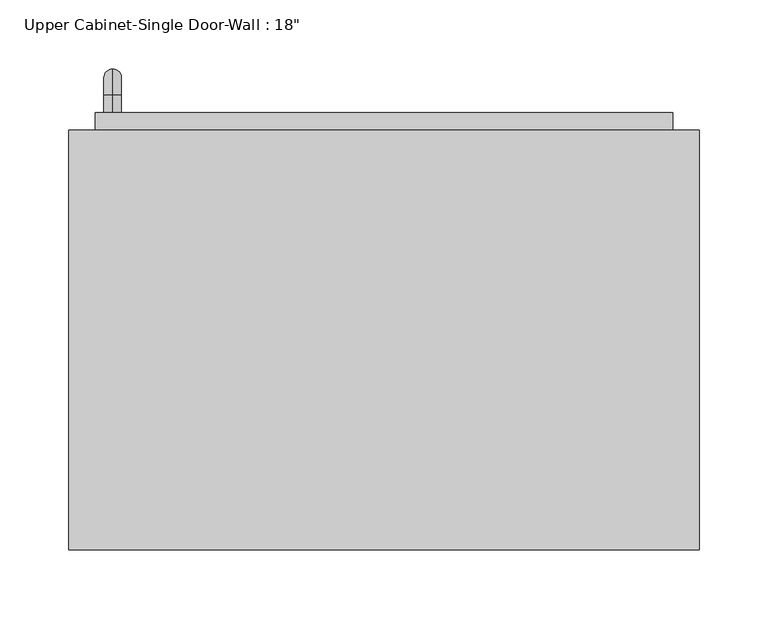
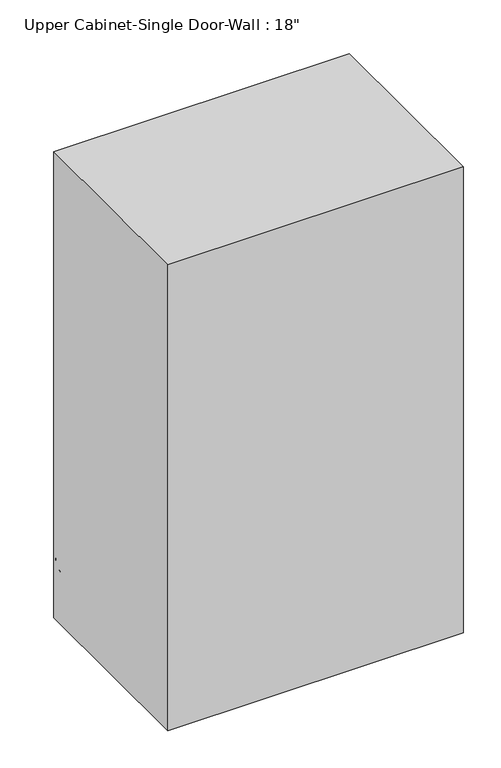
"""IFC4 building model written with IfcOpenShell, lengths in millimetres: furniture geometry."""

from ifc_helpers import new_model, si_unit, point, frame, origin, place, context, project, spatial, polyline, circle_curve, ellipse_curve, trimmed, outline, extrude, faceted_brep, source, transform, mapped, element, save
from ifc_brep_helpers import plane_surface, cylinder_surface, revolved_surface, advanced_brep


def furniture_02d81ec9(model_context):
    return source(origin(), model_context, "Body", "SolidModel", [
        faceted_brep([(-198.8288372, 90.4875, 2133.6), (-198.8288372, 90.4875, 1371.6), (258.3711628, 90.4875, 1371.6), (258.3711628, 90.4875, 2133.6), (-198.8288372, 395.2875, 2133.6), (258.3711628, 395.2875, 2133.6), (258.3711628, 395.2875, 1371.6), (-198.8288372, 395.2875, 1371.6), (-179.7788372, 395.2875, 2114.55), (-179.7788372, 395.2875, 1390.65), (239.3211628, 395.2875, 1390.65), (239.3211628, 395.2875, 2114.55), (239.3211628, 109.5375, 2114.55), (-179.7788372, 109.5375, 2114.55), (239.3211628, 109.5375, 1390.65), (-179.7788372, 109.5375, 1390.65)], [[[0, 1, 2, 3]], [[4, 5, 6, 7], [8, 9, 10, 11]], [[1, 0, 4, 7]], [[2, 1, 7, 6]], [[3, 2, 6, 5]], [[0, 3, 5, 4]], [[8, 11, 12, 13]], [[11, 10, 14, 12]], [[10, 9, 15, 14]], [[9, 8, 13, 15]], [[13, 12, 14, 15]]]),
        advanced_brep(
        [(-167.0788372, 407.9875, 1517.65), (-167.0788372, 407.9875, 1530.35), (-167.0788372, 420.6875, 1517.65), (-167.0788372, 420.6875, 1530.35), (-167.0788372, 439.7375, 1511.3), (-167.0788372, 427.0375, 1511.3), (-167.0788372, 427.0375, 1435.1), (-167.0788372, 439.7375, 1435.1), (-167.0788372, 420.6875, 1416.05), (-167.0788372, 420.6875, 1428.75), (-167.0788372, 407.9875, 1428.75), (-167.0788372, 407.9875, 1416.05)],
        [
            (0, 1, circle_curve(frame((-167.0788372, 407.9875, 1524.0), z_axis=(0.0, -1.0, 0.0), x_axis=(0.0, 0.0, 1.0)), 6.35)),
            (1, 0, circle_curve(frame((-167.0788372, 407.9875, 1524.0), z_axis=(0.0, -1.0, 0.0), x_axis=(0.0, 0.0, 1.0)), 6.35)),
            (0, 2),
            (2, 3, circle_curve(frame((-167.0788372, 420.6875, 1524.0), z_axis=(0.0, -1.0, 0.0), x_axis=(0.0, 0.0, 1.0)), 6.35)),
            (3, 1),
            (3, 2, circle_curve(frame((-167.0788372, 420.6875, 1524.0), z_axis=(0.0, -1.0, 0.0), x_axis=(0.0, 0.0, 1.0)), 6.35)),
            (4, 3, circle_curve(frame((-167.0788372, 420.6875, 1511.3), z_axis=(1.0, 0.0, 0.0), x_axis=(0.0, 0.0, 1.0)), 19.05)),
            (2, 5, circle_curve(frame((-167.0788372, 420.6875, 1511.3), z_axis=(-1.0, 0.0, 0.0), x_axis=(0.0, 0.0, 1.0)), 6.35)),
            (5, 4, circle_curve(frame((-167.0788372, 433.3875, 1511.3), z_axis=(0.0, 0.0, 1.0), x_axis=(0.0, 1.0, 0.0)), 6.35)),
            (4, 5, circle_curve(frame((-167.0788372, 433.3875, 1511.3), z_axis=(0.0, 0.0, 1.0), x_axis=(0.0, 1.0, 0.0)), 6.35)),
            (5, 6),
            (6, 7, circle_curve(frame((-167.0788372, 433.3875, 1435.1), z_axis=(0.0, 0.0, 1.0), x_axis=(0.0, 1.0, 0.0)), 6.35)),
            (7, 4),
            (7, 6, circle_curve(frame((-167.0788372, 433.3875, 1435.1), z_axis=(0.0, 0.0, 1.0), x_axis=(0.0, 1.0, 0.0)), 6.35)),
            (8, 7, circle_curve(frame((-167.0788372, 420.6875, 1435.1), z_axis=(1.0, 0.0, 0.0), x_axis=(0.0, 1.0, 0.0)), 19.05)),
            (6, 9, circle_curve(frame((-167.0788372, 420.6875, 1435.1), z_axis=(-1.0, 0.0, 0.0), x_axis=(0.0, 1.0, 0.0)), 6.35)),
            (9, 8, circle_curve(frame((-167.0788372, 420.6875, 1422.4), z_axis=(0.0, 1.0, 0.0), x_axis=(0.0, 0.0, -1.0)), 6.35)),
            (8, 9, circle_curve(frame((-167.0788372, 420.6875, 1422.4), z_axis=(0.0, 1.0, 0.0), x_axis=(0.0, 0.0, -1.0)), 6.35)),
            (10, 11, circle_curve(frame((-167.0788372, 407.9875, 1422.4), z_axis=(0.0, -1.0, 0.0), x_axis=(0.0, 0.0, -1.0)), 6.35)),
            (11, 10, circle_curve(frame((-167.0788372, 407.9875, 1422.4), z_axis=(0.0, -1.0, 0.0), x_axis=(0.0, 0.0, -1.0)), 6.35)),
            (9, 10),
            (11, 8),
        ],
        [
            plane_surface(frame((-173.4288372, 407.9875, 1524.0), z_axis=(0.0, -1.0, 0.0), x_axis=(0.0, 0.0, 1.0))),
            cylinder_surface(frame((-167.0788372, 407.9875, 1524.0), z_axis=(0.0, -1.0, 0.0), x_axis=(0.0, 0.0, 1.0)), 6.35),
            revolved_surface(trimmed(ellipse_curve(frame((-167.0788372, 420.6875, 1524.0), z_axis=(0.0, -1.0, 0.0), x_axis=(0.0, 0.0, 1.0)), 6.35, 6.35), [point((-167.0788372, 420.6875, 1517.65))], [point((-167.0788372, 420.6875, 1530.35))], True, "CARTESIAN"), (-167.0788372, 420.6875, 1511.3), (-1.0, 0.0, 0.0)),
            revolved_surface(trimmed(ellipse_curve(frame((-167.0788372, 420.6875, 1524.0), z_axis=(0.0, -1.0, 0.0), x_axis=(0.0, 0.0, 1.0)), 6.35, 6.35), [point((-167.0788372, 420.6875, 1530.35))], [point((-167.0788372, 420.6875, 1517.65))], True, "CARTESIAN"), (-167.0788372, 420.6875, 1511.3), (-1.0, 0.0, 0.0)),
            cylinder_surface(frame((-167.0788372, 433.3875, 1511.3), z_axis=(0.0, 0.0, 1.0), x_axis=(0.0, 1.0, 0.0)), 6.35),
            revolved_surface(trimmed(ellipse_curve(frame((-167.0788372, 433.3875, 1435.1), z_axis=(0.0, 0.0, 1.0), x_axis=(0.0, 1.0, 0.0)), 6.35, 6.35), [point((-167.0788372, 427.0375, 1435.1))], [point((-167.0788372, 439.7375, 1435.1))], True, "CARTESIAN"), (-167.0788372, 420.6875, 1435.1), (-1.0, 0.0, 0.0)),
            revolved_surface(trimmed(ellipse_curve(frame((-167.0788372, 433.3875, 1435.1), z_axis=(0.0, 0.0, 1.0), x_axis=(0.0, 1.0, 0.0)), 6.35, 6.35), [point((-167.0788372, 439.7375, 1435.1))], [point((-167.0788372, 427.0375, 1435.1))], True, "CARTESIAN"), (-167.0788372, 420.6875, 1435.1), (-1.0, 0.0, 0.0)),
            plane_surface(frame((-173.4288372, 407.9875, 1422.4), z_axis=(0.0, -1.0, 0.0), x_axis=(0.0, 0.0, -1.0))),
            cylinder_surface(frame((-167.0788372, 420.6875, 1422.4), z_axis=(0.0, 1.0, 0.0), x_axis=(0.0, 0.0, -1.0)), 6.35),
        ],
        [
            (0, [[1, 2]]),
            (1, [[-1, 3, 4, 5]]),
            (1, [[-2, -5, 6, -3]]),
            (2, [[7, -4, 8, 9]]),
            (3, [[-8, -6, -7, 10]]),
            (4, [[-9, 11, 12, 13]]),
            (4, [[-10, -13, 14, -11]]),
            (5, [[15, -12, 16, 17]]),
            (6, [[-16, -14, -15, 18]]),
            (7, [[19, 20]]),
            (8, [[-17, 21, -20, 22]]),
            (8, [[-18, -22, -19, -21]]),
        ],
    ),
        extrude(outline(polyline([(-179.7788372, 407.9875), (239.3211628, 407.9875), (239.3211628, 376.2375), (-179.7788372, 376.2375), (-179.7788372, 407.9875)])), frame((0.0, 0.0, 1390.65), z_axis=(0.0, 0.0, 1.0), x_axis=(1.0, 0.0, 0.0)), (0.0, 0.0, 1.0), 723.9),
    ])


if __name__ == "__main__":
    model = new_model("IFC4")
    model_context = context("Model", 3, world=origin())
    ifc_project = project(units=[si_unit("LENGTHUNIT", "METRE", prefix="MILLI")], contexts=[model_context])
    site = spatial("IfcSite", under=ifc_project)
    building = spatial("IfcBuilding", under=site)
    placement = place(None, origin())
    furniture_shape = furniture_02d81ec9(model_context)
    element("IfcFurniture", 1, ObjectType="Upper Cabinet-Single Door-Wall : 18\"", at=placement, inside=building, context=model_context, shape_type="MappedRepresentation", body=[
        mapped(furniture_shape, transform((0.0, 0.0, 0.0), x_axis=(1.0, 0.0, 0.0), y_axis=(0.0, 1.0, 0.0), z_axis=(0.0, 0.0, 1.0))),
    ])
    save(model, "model.ifc")
